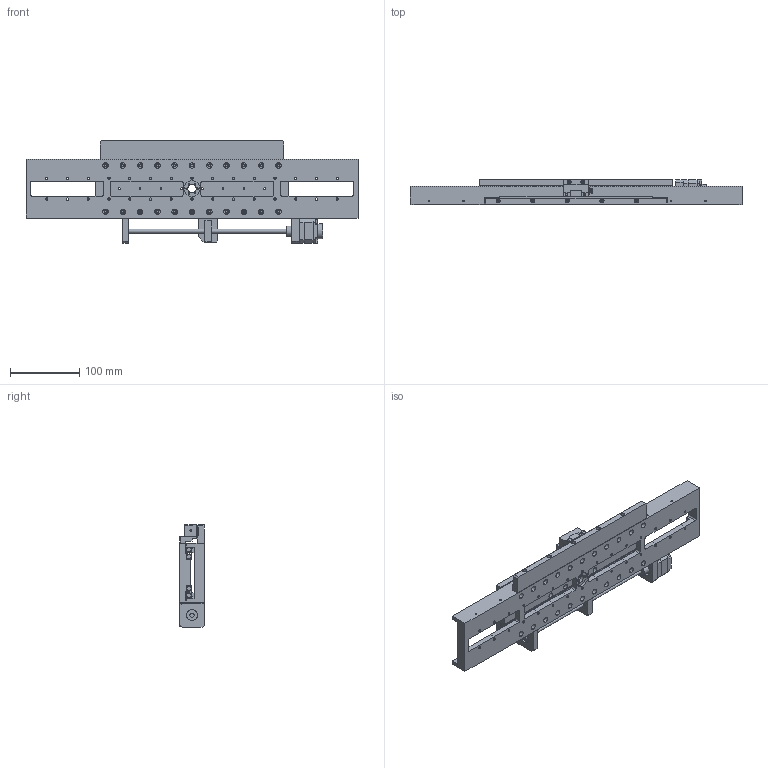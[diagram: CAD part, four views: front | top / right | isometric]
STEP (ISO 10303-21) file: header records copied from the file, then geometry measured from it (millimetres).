
FILE_DESCRIPTION (( 'STEP AP214' ), '1' );
FILE_NAME ('VSM17-X-200-E.STEP', '2022-12-15T15:00:41', ( '' ), ( '' ), 'SwSTEP 2.0', 'SolidWorks 2022', '' );
FILE_SCHEMA (( 'AUTOMOTIVE_DESIGN' ));
Length unit declared in the file: millimetre
Products named in the file (11): Renishaw RELA30-200 Scale; Simplified Drivetrain_VSM17-X-200; Simplified VSM17-X-200 Base V2; VSM17-X-200-E; Simplified VSM17-X Encoder Mount; Simplified Motor_H; Simplified Encoder; Simplified VSM17-X-200 Carriage; CRW3_275C35SL_7; VSM17-X-200 Encoder Scale mount; Simplified Leadscrew Nut
Assembly tree (13 placements, depth 2):
  VSM17-X-200-E
    Simplified VSM17-X-200 Base V2
    CRW3_275C35SL_7  x4
    Simplified VSM17-X-200 Carriage
    Simplified Motor_H
    Simplified Drivetrain_VSM17-X-200
    Simplified Leadscrew Nut
    VSM17-X-200 Encoder Scale mount
    Renishaw RELA30-200 Scale
    Simplified VSM17-X Encoder Mount
    Simplified Encoder
Bounding box: 480 x 36 x 148.7 mm (x, y, z)
Volume: 906687 mm3; surface area: 299387.2 mm2
Topology: 13 solids, 13 shells, 1385 faces, 3498 edges, 2225 vertices
Faces by surface type: cylinder 730, plane 425, cone 208, torus 22
Entity records: 35123 total; most frequent: DIRECTION 5809, CARTESIAN_POINT 5409, ORIENTED_EDGE 5056, EDGE_CURVE 2528, AXIS2_PLACEMENT_3D 2272, VERTEX_POINT 1652, EDGE_LOOP 1426, LINE 1265
